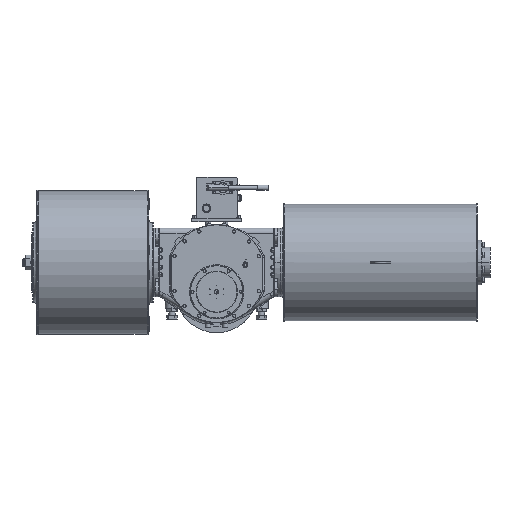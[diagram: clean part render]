
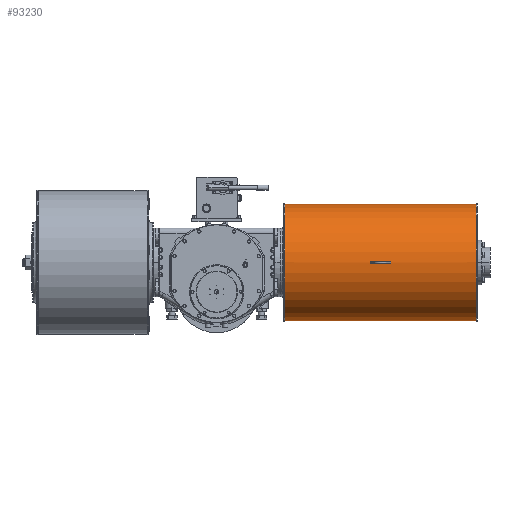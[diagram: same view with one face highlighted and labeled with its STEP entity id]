
A CAD part, top view. The second image highlights one B-rep face of the part: STEP entity #93230.
In plain terms, the highlighted cylindrical face has radius 340 mm (diameter 680 mm), a partial arc.
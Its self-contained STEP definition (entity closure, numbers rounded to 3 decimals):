
#18 = DIRECTION ( 'NONE',  ( 0., 1., 0. ) ) ;
#3060 = ORIENTED_EDGE ( 'NONE', *, *, #34719, .T. ) ;
#3080 = VERTEX_POINT ( 'NONE', #73605 ) ;
#5061 = CIRCLE ( 'NONE', #84675, 340. ) ;
#5543 = ORIENTED_EDGE ( 'NONE', *, *, #13742, .T. ) ;
#7093 = VERTEX_POINT ( 'NONE', #53064 ) ;
#9961 = ORIENTED_EDGE ( 'NONE', *, *, #45836, .T. ) ;
#10416 = AXIS2_PLACEMENT_3D ( 'NONE', #87816, #80209, #14600 ) ;
#11088 = DIRECTION ( 'NONE',  ( 0., -1., 0. ) ) ;
#11495 = DIRECTION ( 'NONE',  ( 1., 0., 0. ) ) ;
#12142 = ORIENTED_EDGE ( 'NONE', *, *, #58334, .F. ) ;
#12223 = DIRECTION ( 'NONE',  ( -1., 0., 0. ) ) ;
#13720 = VERTEX_POINT ( 'NONE', #81059 ) ;
#13742 = EDGE_CURVE ( 'NONE', #7093, #17680, #38304, .T. ) ;
#14362 = CARTESIAN_POINT ( 'NONE',  ( 1502., 166., 477.963 ) ) ;
#14600 = DIRECTION ( 'NONE',  ( 0., 0., 1. ) ) ;
#15499 = EDGE_LOOP ( 'NONE', ( #3060, #5543, #66819, #12142 ) ) ;
#17052 = CIRCLE ( 'NONE', #41339, 340. ) ;
#17680 = VERTEX_POINT ( 'NONE', #19789 ) ;
#17856 = DIRECTION ( 'NONE',  ( 0., 1., 0. ) ) ;
#18173 = CARTESIAN_POINT ( 'NONE',  ( 395.885, 171., 138. ) ) ;
#18409 = DIRECTION ( 'NONE',  ( -1., 0., 0. ) ) ;
#19789 = CARTESIAN_POINT ( 'NONE',  ( 395.885, 511., 138. ) ) ;
#21609 = LINE ( 'NONE', #96918, #49403 ) ;
#22523 = DIRECTION ( 'NONE',  ( -1., 0., 0. ) ) ;
#23938 = CARTESIAN_POINT ( 'NONE',  ( 892., 171., 138. ) ) ;
#26851 = VECTOR ( 'NONE', #70075, 1000. ) ;
#26955 = DIRECTION ( 'NONE',  ( 0., -1., 0. ) ) ;
#30808 = DIRECTION ( 'NONE',  ( -1., 0., 0. ) ) ;
#30988 = EDGE_CURVE ( 'NONE', #89910, #36868, #77678, .T. ) ;
#31312 = VERTEX_POINT ( 'NONE', #52109 ) ;
#34719 = EDGE_CURVE ( 'NONE', #62740, #7093, #43368, .T. ) ;
#36868 = VERTEX_POINT ( 'NONE', #47111 ) ;
#37464 = AXIS2_PLACEMENT_3D ( 'NONE', #68843, #18409, #17856 ) ;
#38304 = LINE ( 'NONE', #39375, #64685 ) ;
#38941 = FACE_OUTER_BOUND ( 'NONE', #15499, .T. ) ;
#39264 = VECTOR ( 'NONE', #12223, 1000. ) ;
#39375 = CARTESIAN_POINT ( 'NONE',  ( 1502., 511., 138. ) ) ;
#39588 = LINE ( 'NONE', #87391, #26851 ) ;
#41156 = EDGE_CURVE ( 'NONE', #102962, #86065, #39588, .T. ) ;
#41339 = AXIS2_PLACEMENT_3D ( 'NONE', #18173, #93500, #11088 ) ;
#43368 = CIRCLE ( 'NONE', #91745, 340. ) ;
#45836 = EDGE_CURVE ( 'NONE', #13720, #3080, #5061, .T. ) ;
#47111 = CARTESIAN_POINT ( 'NONE',  ( 1012., 166., 477.963 ) ) ;
#49403 = VECTOR ( 'NONE', #96377, 1000. ) ;
#52109 = CARTESIAN_POINT ( 'NONE',  ( 395.885, -169., 138. ) ) ;
#52764 = CARTESIAN_POINT ( 'NONE',  ( 1012., 171., 138. ) ) ;
#53064 = CARTESIAN_POINT ( 'NONE',  ( 1508.115, 511., 138. ) ) ;
#56100 = CARTESIAN_POINT ( 'NONE',  ( 1012., 171., 478. ) ) ;
#56649 = ORIENTED_EDGE ( 'NONE', *, *, #41156, .F. ) ;
#57033 = DIRECTION ( 'NONE',  ( -1., 0., 0. ) ) ;
#58334 = EDGE_CURVE ( 'NONE', #62740, #31312, #21609, .T. ) ;
#62156 = CARTESIAN_POINT ( 'NONE',  ( 1508.115, 171., 138. ) ) ;
#62740 = VERTEX_POINT ( 'NONE', #73145 ) ;
#63865 = DIRECTION ( 'NONE',  ( 0., -1., 0. ) ) ;
#63907 = EDGE_LOOP ( 'NONE', ( #81224, #64909, #100959, #9961, #93900, #56649 ) ) ;
#64685 = VECTOR ( 'NONE', #22523, 1000. ) ;
#64909 = ORIENTED_EDGE ( 'NONE', *, *, #30988, .T. ) ;
#65608 = CARTESIAN_POINT ( 'NONE',  ( 892., 176., 477.963 ) ) ;
#66819 = ORIENTED_EDGE ( 'NONE', *, *, #101895, .T. ) ;
#67411 = DIRECTION ( 'NONE',  ( 0., 0., 1. ) ) ;
#68843 = CARTESIAN_POINT ( 'NONE',  ( 892., 171., 138. ) ) ;
#69677 = EDGE_CURVE ( 'NONE', #102962, #89910, #83188, .T. ) ;
#70075 = DIRECTION ( 'NONE',  ( -1., 0., 0. ) ) ;
#71989 = CYLINDRICAL_SURFACE ( 'NONE', #86887, 340. ) ;
#73145 = CARTESIAN_POINT ( 'NONE',  ( 1508.115, -169., 138. ) ) ;
#73605 = CARTESIAN_POINT ( 'NONE',  ( 892., 171., 478. ) ) ;
#77593 = EDGE_CURVE ( 'NONE', #36868, #13720, #104911, .T. ) ;
#77678 = CIRCLE ( 'NONE', #100173, 340. ) ;
#80092 = FACE_BOUND ( 'NONE', #63907, .T. ) ;
#80209 = DIRECTION ( 'NONE',  ( 1., 0., 0. ) ) ;
#81059 = CARTESIAN_POINT ( 'NONE',  ( 892., 166., 477.963 ) ) ;
#81224 = ORIENTED_EDGE ( 'NONE', *, *, #69677, .T. ) ;
#81564 = CARTESIAN_POINT ( 'NONE',  ( 1012., 176., 477.963 ) ) ;
#83188 = CIRCLE ( 'NONE', #10416, 340. ) ;
#84155 = CIRCLE ( 'NONE', #37464, 340. ) ;
#84675 = AXIS2_PLACEMENT_3D ( 'NONE', #23938, #57033, #18 ) ;
#86065 = VERTEX_POINT ( 'NONE', #65608 ) ;
#86887 = AXIS2_PLACEMENT_3D ( 'NONE', #105022, #30808, #63865 ) ;
#87391 = CARTESIAN_POINT ( 'NONE',  ( 1502., 176., 477.963 ) ) ;
#87816 = CARTESIAN_POINT ( 'NONE',  ( 1012., 171., 138. ) ) ;
#89910 = VERTEX_POINT ( 'NONE', #56100 ) ;
#91745 = AXIS2_PLACEMENT_3D ( 'NONE', #62156, #95163, #26955 ) ;
#93230 = ADVANCED_FACE ( 'NONE', ( #80092, #38941 ), #71989, .T. ) ;
#93500 = DIRECTION ( 'NONE',  ( 1., 0., 0. ) ) ;
#93900 = ORIENTED_EDGE ( 'NONE', *, *, #99896, .T. ) ;
#95163 = DIRECTION ( 'NONE',  ( -1., 0., 0. ) ) ;
#96377 = DIRECTION ( 'NONE',  ( -1., 0., 0. ) ) ;
#96918 = CARTESIAN_POINT ( 'NONE',  ( 1502., -169., 138. ) ) ;
#99896 = EDGE_CURVE ( 'NONE', #3080, #86065, #84155, .T. ) ;
#100173 = AXIS2_PLACEMENT_3D ( 'NONE', #52764, #11495, #67411 ) ;
#100959 = ORIENTED_EDGE ( 'NONE', *, *, #77593, .T. ) ;
#101895 = EDGE_CURVE ( 'NONE', #17680, #31312, #17052, .T. ) ;
#102962 = VERTEX_POINT ( 'NONE', #81564 ) ;
#104911 = LINE ( 'NONE', #14362, #39264 ) ;
#105022 = CARTESIAN_POINT ( 'NONE',  ( 1502., 171., 138. ) ) ;
